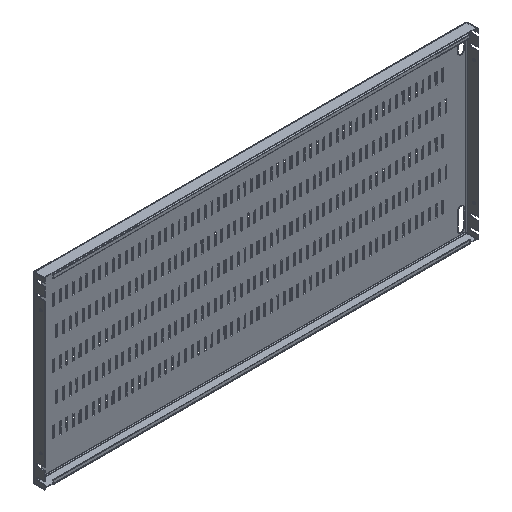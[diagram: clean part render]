
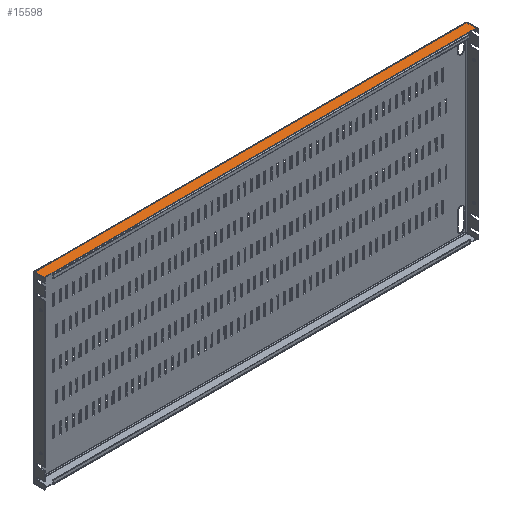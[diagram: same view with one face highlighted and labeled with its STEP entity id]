
A CAD part, isometric view. The second image highlights one B-rep face of the part: STEP entity #15598.
In plain terms, the highlighted planar face has unit normal (0, 0, 1) as drawn and (0, 1, 0) by its records, which use the part's own axes.
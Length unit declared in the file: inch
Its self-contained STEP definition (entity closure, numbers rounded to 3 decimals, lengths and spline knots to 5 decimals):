
#11519 = CARTESIAN_POINT ( 'NONE',  ( 18.5855, 7.882, 0.115 ) ) ;
#11543 = DIRECTION ( 'NONE',  ( 1., 0., 0. ) ) ;
#11544 = VECTOR ( 'NONE', #11543, 39.37008 ) ;
#11545 = CARTESIAN_POINT ( 'NONE',  ( 18.6615, 7.882, 0.115 ) ) ;
#11546 = LINE ( 'NONE', #11545, #11544 ) ;
#11556 = DIRECTION ( 'NONE',  ( 0., 0., -1. ) ) ;
#11559 = DIRECTION ( 'NONE',  ( 0., -1., 0. ) ) ;
#11560 = CARTESIAN_POINT ( 'NONE',  ( 18.6615, 7.882, 1.063 ) ) ;
#11566 = PLANE ( 'NONE',  #11574 ) ;
#11572 = FACE_OUTER_BOUND ( 'NONE', #15638, .T. ) ;
#11574 = AXIS2_PLACEMENT_3D ( 'NONE', #11560, #11559, #11556 ) ;
#11577 = LINE ( 'NONE', #11622, #11621 ) ;
#11583 = CARTESIAN_POINT ( 'NONE',  ( 17.9115, 7.882, 0.948 ) ) ;
#11620 = DIRECTION ( 'NONE',  ( 0., 0., -1. ) ) ;
#11621 = VECTOR ( 'NONE', #11620, 39.37008 ) ;
#11622 = CARTESIAN_POINT ( 'NONE',  ( 17.9115, 7.882, 1.063 ) ) ;
#12038 = CARTESIAN_POINT ( 'NONE',  ( -18.5855, 7.882, 0.115 ) ) ;
#12046 = CARTESIAN_POINT ( 'NONE',  ( -17.9115, 7.882, 1.063 ) ) ;
#12065 = DIRECTION ( 'NONE',  ( 1., 0., 0. ) ) ;
#12066 = VECTOR ( 'NONE', #12065, 39.37008 ) ;
#12067 = CARTESIAN_POINT ( 'NONE',  ( -17.9115, 7.882, 0.948 ) ) ;
#12068 = LINE ( 'NONE', #12067, #12066 ) ;
#12070 = DIRECTION ( 'NONE',  ( 0., 0., 1. ) ) ;
#12071 = VECTOR ( 'NONE', #12070, 39.37008 ) ;
#12072 = CARTESIAN_POINT ( 'NONE',  ( 18.5855, 7.882, 0.938 ) ) ;
#12077 = LINE ( 'NONE', #12124, #12123 ) ;
#12094 = LINE ( 'NONE', #12046, #12071 ) ;
#12122 = DIRECTION ( 'NONE',  ( 0., 0., -1. ) ) ;
#12123 = VECTOR ( 'NONE', #12122, 39.37008 ) ;
#12124 = CARTESIAN_POINT ( 'NONE',  ( -18.5855, 7.882, 1.063 ) ) ;
#12125 = CARTESIAN_POINT ( 'NONE',  ( -17.9115, 7.882, 0.938 ) ) ;
#13864 = CARTESIAN_POINT ( 'NONE',  ( 17.9115, 7.882, 0.938 ) ) ;
#15555 = VERTEX_POINT ( 'NONE', #11519 ) ;
#15573 = EDGE_CURVE ( 'NONE', #16414, #15555, #11546, .T. ) ;
#15591 = VERTEX_POINT ( 'NONE', #11583 ) ;
#15598 = ADVANCED_FACE ( 'NONE', ( #11572 ), #11566, .F. ) ;
#15603 = EDGE_CURVE ( 'NONE', #15591, #24164, #11577, .T. ) ;
#15638 = EDGE_LOOP ( 'NONE', ( #15643, #16415, #16468, #16469, #24154, #24823, #16262, #16452 ) ) ;
#15643 = ORIENTED_EDGE ( 'NONE', *, *, #15603, .T. ) ;
#16254 = EDGE_CURVE ( 'NONE', #16453, #24821, #12094, .T. ) ;
#16257 = VERTEX_POINT ( 'NONE', #12072 ) ;
#16262 = ORIENTED_EDGE ( 'NONE', *, *, #16254, .T. ) ;
#16414 = VERTEX_POINT ( 'NONE', #12038 ) ;
#16415 = ORIENTED_EDGE ( 'NONE', *, *, #25830, .T. ) ;
#16416 = EDGE_CURVE ( 'NONE', #24821, #15591, #12068, .T. ) ;
#16452 = ORIENTED_EDGE ( 'NONE', *, *, #16416, .T. ) ;
#16453 = VERTEX_POINT ( 'NONE', #12125 ) ;
#16462 = EDGE_CURVE ( 'NONE', #25290, #16414, #12077, .T. ) ;
#16468 = ORIENTED_EDGE ( 'NONE', *, *, #24896, .T. ) ;
#16469 = ORIENTED_EDGE ( 'NONE', *, *, #15573, .F. ) ;
#24154 = ORIENTED_EDGE ( 'NONE', *, *, #16462, .F. ) ;
#24164 = VERTEX_POINT ( 'NONE', #13864 ) ;
#24821 = VERTEX_POINT ( 'NONE', #32936 ) ;
#24823 = ORIENTED_EDGE ( 'NONE', *, *, #24889, .T. ) ;
#24889 = EDGE_CURVE ( 'NONE', #25290, #16453, #33067, .T. ) ;
#24896 = EDGE_CURVE ( 'NONE', #16257, #15555, #33049, .T. ) ;
#25290 = VERTEX_POINT ( 'NONE', #33602 ) ;
#25830 = EDGE_CURVE ( 'NONE', #24164, #16257, #34444, .T. ) ;
#32936 = CARTESIAN_POINT ( 'NONE',  ( -17.9115, 7.882, 0.948 ) ) ;
#33049 = LINE ( 'NONE', #33073, #33110 ) ;
#33057 = VECTOR ( 'NONE', #33065, 39.37008 ) ;
#33065 = DIRECTION ( 'NONE',  ( 1., 0., 0. ) ) ;
#33066 = CARTESIAN_POINT ( 'NONE',  ( 18.6615, 7.882, 0.938 ) ) ;
#33067 = LINE ( 'NONE', #33066, #33057 ) ;
#33073 = CARTESIAN_POINT ( 'NONE',  ( 18.5855, 7.882, 1.063 ) ) ;
#33109 = DIRECTION ( 'NONE',  ( 0., 0., -1. ) ) ;
#33110 = VECTOR ( 'NONE', #33109, 39.37008 ) ;
#33602 = CARTESIAN_POINT ( 'NONE',  ( -18.5855, 7.882, 0.938 ) ) ;
#34437 = DIRECTION ( 'NONE',  ( 1., 0., 0. ) ) ;
#34438 = VECTOR ( 'NONE', #34437, 39.37008 ) ;
#34439 = CARTESIAN_POINT ( 'NONE',  ( 18.6615, 7.882, 0.938 ) ) ;
#34444 = LINE ( 'NONE', #34439, #34438 ) ;
